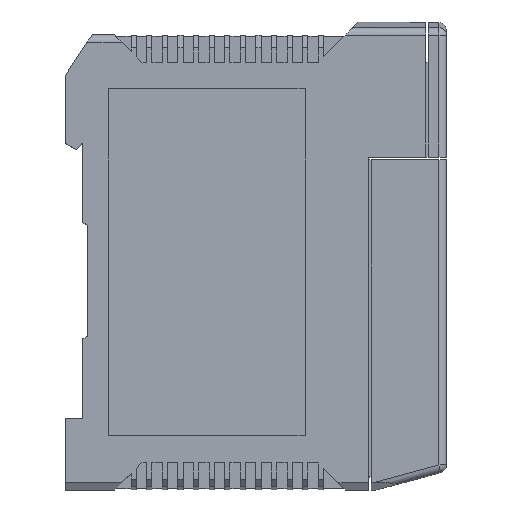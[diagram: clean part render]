
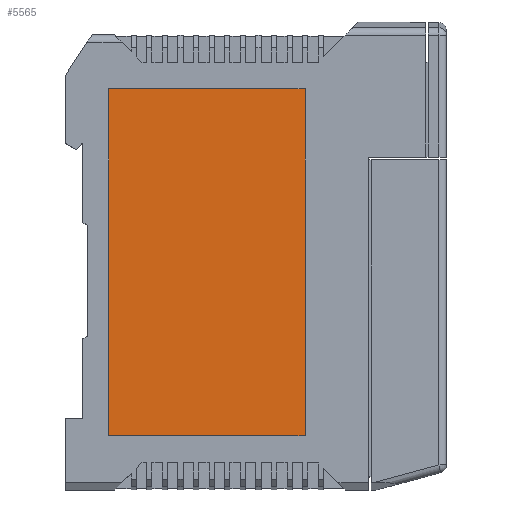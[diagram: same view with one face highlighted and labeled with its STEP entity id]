
A CAD part, top view. The second image highlights one B-rep face of the part: STEP entity #5565.
In plain terms, the highlighted planar face has unit normal (0, 0, 1).
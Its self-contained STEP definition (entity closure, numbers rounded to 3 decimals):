
#5565=ADVANCED_FACE('',(#10037),#10039,.T.);
#10037=FACE_BOUND('',#10038,.T.);
#10038=EDGE_LOOP('',(#14095,#14096,#14097,#14098));
#10039=PLANE('',#10040);
#10040=AXIS2_PLACEMENT_3D('',#10041,#10042,#10043);
#10041=CARTESIAN_POINT('',(0.,0.,-0.5));
#10042=DIRECTION('',(0.,0.,1.));
#10043=DIRECTION('',(1.,0.,0.));
#14095=ORIENTED_EDGE('',*,*,#15781,.T.);
#14096=ORIENTED_EDGE('',*,*,#15787,.T.);
#14097=ORIENTED_EDGE('',*,*,#15785,.T.);
#14098=ORIENTED_EDGE('',*,*,#15783,.T.);
#15781=EDGE_CURVE('',#18839,#18837,#18840,.T.);
#15783=EDGE_CURVE('',#18842,#18839,#18843,.T.);
#15785=EDGE_CURVE('',#18845,#18842,#18846,.T.);
#15787=EDGE_CURVE('',#18837,#18845,#18848,.T.);
#18837=VERTEX_POINT('',#25194);
#18839=VERTEX_POINT('',#25198);
#18840=LINE('',#25199,#25200);
#18842=VERTEX_POINT('',#25205);
#18843=LINE('',#25206,#25207);
#18845=VERTEX_POINT('',#25212);
#18846=LINE('',#25213,#25214);
#18848=LINE('',#25219,#25220);
#25194=CARTESIAN_POINT('',(-129.9,-25.75,-0.5));
#25198=CARTESIAN_POINT('',(-54.4,-25.75,-0.5));
#25199=CARTESIAN_POINT('',(-54.4,-25.75,-0.5));
#25200=VECTOR('',#25201,1.);
#25201=DIRECTION('',(-1.,0.,0.));
#25205=CARTESIAN_POINT('',(-54.4,-159.15,-0.5));
#25206=CARTESIAN_POINT('',(-54.4,-159.15,-0.5));
#25207=VECTOR('',#25208,1.);
#25208=DIRECTION('',(0.,1.,0.));
#25212=CARTESIAN_POINT('',(-129.9,-159.15,-0.5));
#25213=CARTESIAN_POINT('',(-129.9,-159.15,-0.5));
#25214=VECTOR('',#25215,1.);
#25215=DIRECTION('',(1.,0.,0.));
#25219=CARTESIAN_POINT('',(-129.9,-25.75,-0.5));
#25220=VECTOR('',#25221,1.);
#25221=DIRECTION('',(0.,-1.,0.));
